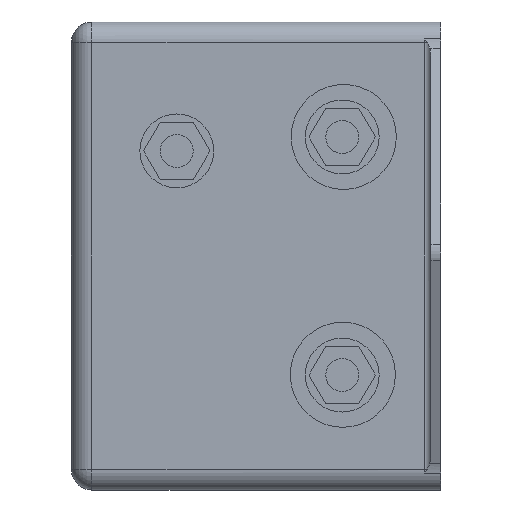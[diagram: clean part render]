
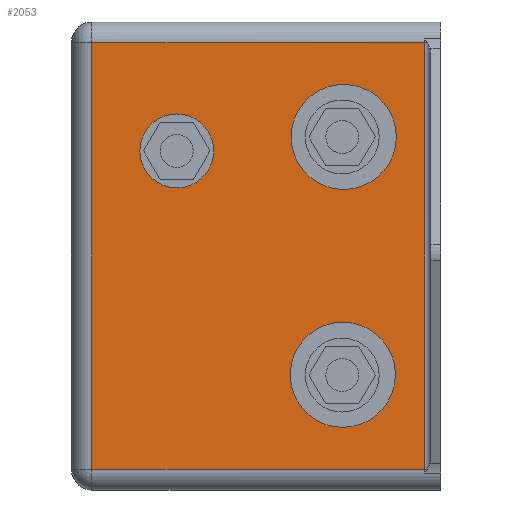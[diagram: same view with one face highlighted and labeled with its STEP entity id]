
A CAD part, left-side view. The second image highlights one B-rep face of the part: STEP entity #2053.
In plain terms, the highlighted planar face has unit normal (-1, 0, 0).
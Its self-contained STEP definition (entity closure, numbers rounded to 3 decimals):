
#7 = DIRECTION ( 'NONE',  ( 0., 0., 1. ) ) ;
#34 = EDGE_CURVE ( 'NONE', #3064, #2563, #1267, .T. ) ;
#61 = CIRCLE ( 'NONE', #1859, 6.4 ) ;
#85 = VERTEX_POINT ( 'NONE', #2744 ) ;
#96 = DIRECTION ( 'NONE',  ( 0., 1., 0. ) ) ;
#111 = VERTEX_POINT ( 'NONE', #2547 ) ;
#190 = ORIENTED_EDGE ( 'NONE', *, *, #573, .T. ) ;
#196 = AXIS2_PLACEMENT_3D ( 'NONE', #3098, #2606, #1907 ) ;
#216 = AXIS2_PLACEMENT_3D ( 'NONE', #967, #2436, #7 ) ;
#218 = LINE ( 'NONE', #2185, #2508 ) ;
#259 = AXIS2_PLACEMENT_3D ( 'NONE', #1955, #477, #1746 ) ;
#297 = FACE_BOUND ( 'NONE', #2032, .T. ) ;
#319 = DIRECTION ( 'NONE',  ( 1., 0., 0. ) ) ;
#345 = ORIENTED_EDGE ( 'NONE', *, *, #1120, .T. ) ;
#376 = CIRCLE ( 'NONE', #216, 6.4 ) ;
#477 = DIRECTION ( 'NONE',  ( 1., 0., 0. ) ) ;
#549 = CARTESIAN_POINT ( 'NONE',  ( -46., 45., 28.5 ) ) ;
#559 = CARTESIAN_POINT ( 'NONE',  ( -46., 42.5, 26. ) ) ;
#564 = VECTOR ( 'NONE', #1734, 1000. ) ;
#573 = EDGE_CURVE ( 'NONE', #3017, #3064, #2521, .T. ) ;
#599 = VERTEX_POINT ( 'NONE', #2976 ) ;
#637 = VERTEX_POINT ( 'NONE', #2466 ) ;
#673 = ORIENTED_EDGE ( 'NONE', *, *, #2473, .T. ) ;
#740 = CARTESIAN_POINT ( 'NONE',  ( -46., 42.5, -26. ) ) ;
#821 = CIRCLE ( 'NONE', #3122, 2. ) ;
#854 = VECTOR ( 'NONE', #1515, 1000. ) ;
#859 = AXIS2_PLACEMENT_3D ( 'NONE', #549, #2781, #96 ) ;
#876 = EDGE_CURVE ( 'NONE', #599, #637, #1910, .T. ) ;
#893 = DIRECTION ( 'NONE',  ( 0., -1., 0. ) ) ;
#967 = CARTESIAN_POINT ( 'NONE',  ( -46., 11.922, -14.465 ) ) ;
#1015 = CIRCLE ( 'NONE', #196, 6.4 ) ;
#1042 = FACE_BOUND ( 'NONE', #2565, .T. ) ;
#1054 = EDGE_CURVE ( 'NONE', #2321, #1371, #1015, .T. ) ;
#1120 = EDGE_CURVE ( 'NONE', #111, #3017, #2162, .T. ) ;
#1177 = EDGE_CURVE ( 'NONE', #2563, #111, #218, .T. ) ;
#1203 = ORIENTED_EDGE ( 'NONE', *, *, #876, .T. ) ;
#1206 = DIRECTION ( 'NONE',  ( 0., 0., 1. ) ) ;
#1267 = LINE ( 'NONE', #740, #564 ) ;
#1286 = DIRECTION ( 'NONE',  ( 0., 0., 1. ) ) ;
#1371 = VERTEX_POINT ( 'NONE', #2069 ) ;
#1392 = CARTESIAN_POINT ( 'NONE',  ( -46., 1.95, 26. ) ) ;
#1403 = CARTESIAN_POINT ( 'NONE',  ( -46., 11.811, 20.9 ) ) ;
#1515 = DIRECTION ( 'NONE',  ( 0., 1., 0. ) ) ;
#1627 = DIRECTION ( 'NONE',  ( 0., 0., 1. ) ) ;
#1661 = DIRECTION ( 'NONE',  ( 1., 0., 0. ) ) ;
#1678 = CARTESIAN_POINT ( 'NONE',  ( -46., 11.922, -14.465 ) ) ;
#1703 = VECTOR ( 'NONE', #1627, 1000. ) ;
#1734 = DIRECTION ( 'NONE',  ( 0., 0., -1. ) ) ;
#1746 = DIRECTION ( 'NONE',  ( 0., 0., -1. ) ) ;
#1757 = ORIENTED_EDGE ( 'NONE', *, *, #2095, .T. ) ;
#1782 = VERTEX_POINT ( 'NONE', #2006 ) ;
#1785 = FACE_OUTER_BOUND ( 'NONE', #1984, .T. ) ;
#1859 = AXIS2_PLACEMENT_3D ( 'NONE', #1678, #2474, #1286 ) ;
#1907 = DIRECTION ( 'NONE',  ( 0., 0., 1. ) ) ;
#1910 = CIRCLE ( 'NONE', #259, 2. ) ;
#1925 = CARTESIAN_POINT ( 'NONE',  ( -46., 1.95, -26. ) ) ;
#1955 = CARTESIAN_POINT ( 'NONE',  ( -46., 32.15, 12.8 ) ) ;
#1958 = AXIS2_PLACEMENT_3D ( 'NONE', #3024, #1661, #1206 ) ;
#1968 = ORIENTED_EDGE ( 'NONE', *, *, #1054, .T. ) ;
#1984 = EDGE_LOOP ( 'NONE', ( #2828, #345, #190, #2486 ) ) ;
#2006 = CARTESIAN_POINT ( 'NONE',  ( -46., 11.922, -8.065 ) ) ;
#2032 = EDGE_LOOP ( 'NONE', ( #673, #1757 ) ) ;
#2053 = ADVANCED_FACE ( 'NONE', ( #2489, #297, #1042, #1785 ), #2748, .F. ) ;
#2069 = CARTESIAN_POINT ( 'NONE',  ( -46., 11.811, 8.1 ) ) ;
#2095 = EDGE_CURVE ( 'NONE', #85, #1782, #376, .T. ) ;
#2159 = ORIENTED_EDGE ( 'NONE', *, *, #2765, .T. ) ;
#2161 = CARTESIAN_POINT ( 'NONE',  ( -46., 42.5, 26. ) ) ;
#2162 = LINE ( 'NONE', #1925, #1703 ) ;
#2185 = CARTESIAN_POINT ( 'NONE',  ( -46., 42.5, -26. ) ) ;
#2249 = ORIENTED_EDGE ( 'NONE', *, *, #2660, .T. ) ;
#2277 = CARTESIAN_POINT ( 'NONE',  ( -46., 32.15, 12.8 ) ) ;
#2321 = VERTEX_POINT ( 'NONE', #1403 ) ;
#2436 = DIRECTION ( 'NONE',  ( 1., 0., 0. ) ) ;
#2466 = CARTESIAN_POINT ( 'NONE',  ( -46., 32.15, 10.8 ) ) ;
#2473 = EDGE_CURVE ( 'NONE', #1782, #85, #61, .T. ) ;
#2474 = DIRECTION ( 'NONE',  ( 1., 0., 0. ) ) ;
#2486 = ORIENTED_EDGE ( 'NONE', *, *, #34, .T. ) ;
#2489 = FACE_BOUND ( 'NONE', #3129, .T. ) ;
#2508 = VECTOR ( 'NONE', #893, 1000. ) ;
#2521 = LINE ( 'NONE', #559, #854 ) ;
#2547 = CARTESIAN_POINT ( 'NONE',  ( -46., 1.95, -26. ) ) ;
#2563 = VERTEX_POINT ( 'NONE', #2648 ) ;
#2565 = EDGE_LOOP ( 'NONE', ( #2249, #1203 ) ) ;
#2606 = DIRECTION ( 'NONE',  ( 1., 0., 0. ) ) ;
#2648 = CARTESIAN_POINT ( 'NONE',  ( -46., 42.5, -26. ) ) ;
#2660 = EDGE_CURVE ( 'NONE', #637, #599, #821, .T. ) ;
#2744 = CARTESIAN_POINT ( 'NONE',  ( -46., 11.922, -20.865 ) ) ;
#2748 = PLANE ( 'NONE',  #859 ) ;
#2765 = EDGE_CURVE ( 'NONE', #1371, #2321, #3020, .T. ) ;
#2781 = DIRECTION ( 'NONE',  ( 1., 0., 0. ) ) ;
#2828 = ORIENTED_EDGE ( 'NONE', *, *, #1177, .T. ) ;
#2976 = CARTESIAN_POINT ( 'NONE',  ( -46., 32.15, 14.8 ) ) ;
#3017 = VERTEX_POINT ( 'NONE', #1392 ) ;
#3020 = CIRCLE ( 'NONE', #1958, 6.4 ) ;
#3024 = CARTESIAN_POINT ( 'NONE',  ( -46., 11.811, 14.5 ) ) ;
#3057 = DIRECTION ( 'NONE',  ( 0., 0., -1. ) ) ;
#3064 = VERTEX_POINT ( 'NONE', #2161 ) ;
#3098 = CARTESIAN_POINT ( 'NONE',  ( -46., 11.811, 14.5 ) ) ;
#3122 = AXIS2_PLACEMENT_3D ( 'NONE', #2277, #319, #3057 ) ;
#3129 = EDGE_LOOP ( 'NONE', ( #1968, #2159 ) ) ;
